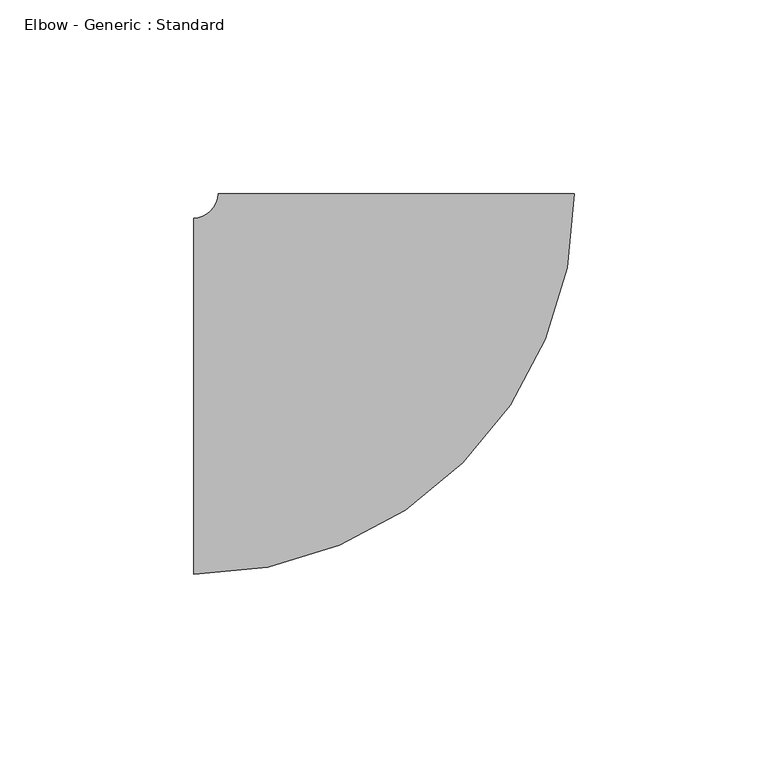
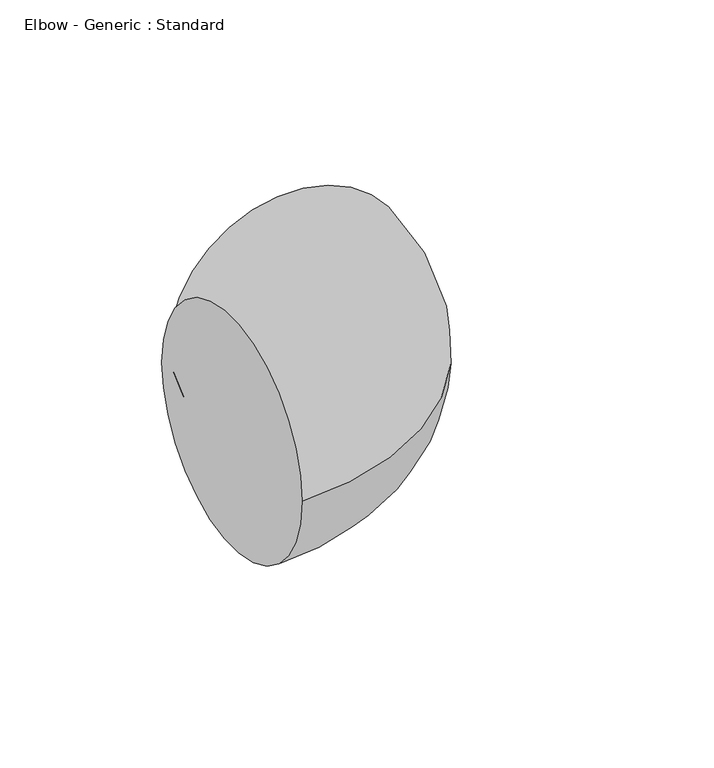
"""IFC4 building model written with IfcOpenShell, lengths in millimetres: pipe fitting geometry, Elbow - Generic : Standard."""

import ifcopenshell
import ifcopenshell.guid

model = None  # the IFC model being written
_history = None  # IfcOwnerHistory: only IFC2X3 demands one
_inside = {}  # id of a spatial element -> (the spatial element, [elements in it])
_under = {}  # id of a project, library or spatial element -> (it, [spatial elements below it])
_declared = {}  # id of a project -> (the project, [libraries it declares])
_typed = {}  # id of a type object -> (the type object, [elements of that type])
_made_of = {}  # id of a material, layer set ... -> (it, [elements and type objects made of it])


def new_model(schema):
    """Start an empty IFC model of exactly this schema.

    Asked for "IFC4X3", IfcOpenShell would pick the latest addendum, in which some entities
    have other attributes; the version numbers below select the first issue.
    IFC2X3 requires an IfcOwnerHistory on every rooted entity: one is made here for all.
    """
    global model, _history
    if schema == "IFC4X3":
        model = ifcopenshell.file(schema_version=(4, 3, 0, 0))
    else:
        model = ifcopenshell.file(schema=schema)
    _inside.clear()
    _under.clear()
    _declared.clear()
    _typed.clear()
    _made_of.clear()
    _history = None
    if model.schema == "IFC2X3":
        org = make("IfcOrganization", Name="unknown")
        user = make(
            "IfcPersonAndOrganization",
            ThePerson=make("IfcPerson", FamilyName="unknown"),
            TheOrganization=org,
        )
        app = make(
            "IfcApplication",
            ApplicationDeveloper=org,
            Version="unknown",
            ApplicationFullName="unknown",
            ApplicationIdentifier="unknown",
        )
        _history = make(
            "IfcOwnerHistory",
            OwningUser=user,
            OwningApplication=app,
            ChangeAction="ADDED",
            CreationDate=0,
        )
    return model


def make(cls, **values):
    """One entity of the class cls with the attributes given. An attribute that is None is left unset."""
    return model.create_entity(
        cls, **{name: value for name, value in values.items() if value is not None}
    )


def rooted(cls, **values):
    """An entity with a GlobalId (a new one), such as an element, a storey or a relation."""
    return make(cls, GlobalId=ifcopenshell.guid.new(), OwnerHistory=_history, **values)


def si_unit(unit_type, name, prefix=None):
    """IfcSIUnit, for example si_unit("LENGTHUNIT", "METRE", prefix="MILLI")."""
    return make("IfcSIUnit", UnitType=unit_type, Prefix=prefix, Name=name)


def assignment(units):
    """IfcUnitAssignment: the units of a project."""
    return None if units is None else make("IfcUnitAssignment", Units=units)


def point(xyz):
    """IfcCartesianPoint."""
    return None if xyz is None else make("IfcCartesianPoint", Coordinates=xyz)


def direction(xyz):
    """IfcDirection."""
    return None if xyz is None else make("IfcDirection", DirectionRatios=xyz)


def frame(location, z_axis=None, x_axis=None):
    """IfcAxis2Placement3D, a coordinate frame: its origin and axes. An axis left out is left unset."""
    return make(
        "IfcAxis2Placement3D",
        Location=point(location),
        Axis=direction(z_axis),
        RefDirection=direction(x_axis),
    )


def origin():
    """The frame at (0, 0, 0) with its axes left unset."""
    return frame((0.0, 0.0, 0.0))


def place(relative_to, where):
    """IfcLocalPlacement: puts the frame where relative to a parent placement (None: the world)."""
    return make(
        "IfcLocalPlacement", PlacementRelTo=relative_to, RelativePlacement=where
    )


def context(
    kind, dimensions, precision=None, world=None, true_north=None, identifier=None
):
    """IfcGeometricRepresentationContext, for example the 3D "Model" context."""
    return make(
        "IfcGeometricRepresentationContext",
        ContextIdentifier=identifier,
        ContextType=kind,
        CoordinateSpaceDimension=dimensions,
        Precision=precision,
        WorldCoordinateSystem=world,
        TrueNorth=true_north,
    )


def project(units=None, contexts=None):
    """IfcProject with its units and contexts."""
    return rooted(
        "IfcProject",
        Name="project",
        RepresentationContexts=contexts,
        UnitsInContext=assignment(units),
    )


def spatial(cls, under=None, at=None, **own):
    """A site, building, storey or space (cls), placed at a placement, below another one or the project."""
    s = rooted(cls, ObjectPlacement=at, **own)
    if under is not None:
        _under.setdefault(under.id(), (under, []))[1].append(s)
    return s


def circle_curve(where, radius):
    """IfcCircle in the frame where."""
    return make("IfcCircle", Position=where, Radius=radius)


def ellipse_curve(where, semi_axis1, semi_axis2):
    """IfcEllipse in the frame where."""
    return make(
        "IfcEllipse", Position=where, SemiAxis1=semi_axis1, SemiAxis2=semi_axis2
    )


def trimmed(basis, trim1, trim2, sense, master):
    """IfcTrimmedCurve: the piece of a basis curve between two trims."""
    return make(
        "IfcTrimmedCurve",
        BasisCurve=basis,
        Trim1=trim1,
        Trim2=trim2,
        SenseAgreement=sense,
        MasterRepresentation=master,
    )


def shape(context_of_items, identifier, shape_type, items):
    """IfcShapeRepresentation: the items that make up one representation, for example the "Body"."""
    return make(
        "IfcShapeRepresentation",
        ContextOfItems=context_of_items,
        RepresentationIdentifier=identifier,
        RepresentationType=shape_type,
        Items=items,
    )


def source(mapping_origin, context_of_items, identifier, shape_type, items):
    """IfcRepresentationMap: a shape defined once, which mapped items show again and again."""
    return make(
        "IfcRepresentationMap",
        MappingOrigin=mapping_origin,
        MappedRepresentation=shape(context_of_items, identifier, shape_type, items),
    )


def transform(
    local_origin,
    x_axis=None,
    y_axis=None,
    z_axis=None,
    scale=None,
    scale2=None,
    scale3=None,
    uniform=True,
):
    """IfcCartesianTransformationOperator3D, or its non-uniform kind. x_axis, y_axis, z_axis: its Axis1, 2, 3."""
    if uniform:
        return make(
            "IfcCartesianTransformationOperator3D",
            Axis1=direction(x_axis),
            Axis2=direction(y_axis),
            LocalOrigin=point(local_origin),
            Scale=scale,
            Axis3=direction(z_axis),
        )
    return make(
        "IfcCartesianTransformationOperator3DnonUniform",
        Axis1=direction(x_axis),
        Axis2=direction(y_axis),
        LocalOrigin=point(local_origin),
        Scale=scale,
        Axis3=direction(z_axis),
        Scale2=scale2,
        Scale3=scale3,
    )


def mapped(mapping_source, mapping_target):
    """IfcMappedItem: shows the shape of a source again, moved by a transform."""
    return make(
        "IfcMappedItem", MappingSource=mapping_source, MappingTarget=mapping_target
    )


def made_of(thing, what):
    """Note that an element or type object is made of a material, layer set ...; save() writes the relation."""
    if what is not None:
        _made_of.setdefault(what.id(), (what, []))[1].append(thing)
    return thing


def element(
    cls,
    number,
    at=None,
    inside=None,
    cuts=None,
    type_object=None,
    material=None,
    context=None,
    identifier="Body",
    shape_type=None,
    held_by="IfcProductDefinitionShape",
    body=None,
    shapes=None,
    **own,
):
    """One element of the class cls, such as IfcWall. Its Tag is "e" and its number.

    at: its placement. inside: the storey or other place that contains it. cuts: it is an
    opening in that element (IfcRelVoidsElement). A single representation is given by context,
    identifier, shape_type and body (its items); several are given by shapes. held_by: the class
    of the entity that holds the representations. save() writes the other relations.
    """
    e = rooted(cls, Tag="e%d" % number, ObjectPlacement=at, **own)
    if body is not None:
        shapes = [shape(context, identifier, shape_type, body)]
    if shapes is not None:
        e.Representation = make(held_by, Representations=shapes)
    if inside is not None:
        _inside.setdefault(inside.id(), (inside, []))[1].append(e)
    if cuts is not None:
        rooted(
            "IfcRelVoidsElement", RelatingBuildingElement=cuts, RelatedOpeningElement=e
        )
    if type_object is not None:
        _typed.setdefault(type_object.id(), (type_object, []))[1].append(e)
    return made_of(e, material)


def aggregate(whole, parts):
    """IfcRelAggregates: a whole, such as a stair, and the parts it consists of."""
    return rooted("IfcRelAggregates", RelatingObject=whole, RelatedObjects=parts)


def save(model, path):
    """Write the relations noted so far, then the file.

    IfcRelAggregates (storeys below a building ...), IfcRelContainedInSpatialStructure (elements
    in a storey), IfcRelDefinesByType, IfcRelAssociatesMaterial and IfcRelDeclares: one each for
    every whole, place, type object, material and project.
    """
    for whole, parts in _under.values():
        aggregate(whole, parts)
    for where, things in _inside.values():
        rooted(
            "IfcRelContainedInSpatialStructure",
            RelatedElements=things,
            RelatingStructure=where,
        )
    for kind, things in _typed.values():
        rooted("IfcRelDefinesByType", RelatedObjects=things, RelatingType=kind)
    for what, things in _made_of.values():
        rooted("IfcRelAssociatesMaterial", RelatedObjects=things, RelatingMaterial=what)
    for by, libraries in _declared.values():
        rooted("IfcRelDeclares", RelatingContext=by, RelatedDefinitions=libraries)
    model.write(path)


def plane_surface(at):
    """IfcPlane: the flat surface through the origin of the frame at, square to its z axis."""
    return make("IfcPlane", Position=at)


def revolved_surface(curve, axis_point, axis_direction):
    """IfcSurfaceOfRevolution: the curve turned about the line through axis_point along axis_direction."""
    return make(
        "IfcSurfaceOfRevolution",
        SweptCurve=make("IfcArbitraryOpenProfileDef", ProfileType="CURVE", Curve=curve),
        AxisPosition=make("IfcAxis1Placement", Location=point(axis_point), Axis=direction(axis_direction)),
    )


def advanced_brep(points, edges, surfaces, faces):
    """IfcAdvancedBrep: a solid bounded by faces that lie on surfaces and meet in shared edges.

    An edge is (start, end): straight between two places in points (the first is 0);
    or (start, end, curve); or (start, end, curve, False) where it runs against its curve.
    A face is (place in surfaces, loops), or (place, loops, False) where it looks against
    its surface's normal. A loop lists edges by number (the first is 1), with a minus sign
    where the edge is run from its end to its start. The first loop is the outer one.
    """
    corners = [point(p) for p in points]
    vertices = [make("IfcVertexPoint", VertexGeometry=c) for c in corners]
    made = []
    for start, end, *more in edges:
        made.append(
            make(
                "IfcEdgeCurve",
                EdgeStart=vertices[start],
                EdgeEnd=vertices[end],
                EdgeGeometry=more[0] if more else make("IfcPolyline", Points=[corners[start], corners[end]]),
                SameSense=more[1] if len(more) > 1 else True,
            )
        )
    hull = []
    for where, loops, *sense in faces:
        bounds = []
        for j, loop in enumerate(loops):
            ring = [make("IfcOrientedEdge", EdgeElement=made[abs(k) - 1], Orientation=k > 0) for k in loop]
            bounds.append(
                make(
                    "IfcFaceOuterBound" if j == 0 else "IfcFaceBound",
                    Bound=make("IfcEdgeLoop", EdgeList=ring),
                    Orientation=True,
                )
            )
        hull.append(make("IfcAdvancedFace", Bounds=bounds, FaceSurface=surfaces[where], SameSense=sense[0] if sense else True))
    return make("IfcAdvancedBrep", Outer=make("IfcClosedShell", CfsFaces=hull))


def elbow_generic_standard_60ae2d4a(model_context):
    return source(origin(), model_context, "Body", "AdvancedBrep", [
        advanced_brep(
        [(-52.380959, -46.0375, 0.0), (-52.380959, 46.0375, 0.0), (46.0440403, 52.37521, 0.0), (-46.030959, 52.3867071, 0.0)],
        [
            (0, 1, circle_curve(frame((-52.380959, 0.0, 0.0), z_axis=(-1.0, 0.0, 0.0), x_axis=(0.0, 1.0, 0.0)), 46.0375)),
            (1, 0, circle_curve(frame((-52.380959, 0.0, 0.0), z_axis=(-1.0, 0.0, 0.0), x_axis=(0.0, 1.0, 0.0)), 46.0375)),
            (2, 3, circle_curve(frame((0.0065406, 52.3809585, 0.0), z_axis=(0.00012486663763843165, 0.9999999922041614, 0.0), x_axis=(-0.9999999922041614, 0.00012486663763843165, 0.0)), 46.0375)),
            (3, 2, circle_curve(frame((0.0065406, 52.3809585, 0.0), z_axis=(0.00012486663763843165, 0.9999999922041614, 0.0), x_axis=(-0.9999999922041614, 0.00012486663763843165, 0.0)), 46.0375)),
            (3, 1, circle_curve(frame((-52.380959, 52.3875, 0.0), z_axis=(0.0, 0.0, -1.0), x_axis=(0.0, -1.0, 0.0)), 6.35)),
            (0, 2, circle_curve(frame((-52.380959, 52.3875, 0.0), z_axis=(0.0, 0.0, 1.0), x_axis=(0.0, -1.0, 0.0)), 98.425)),
        ],
        [
            plane_surface(frame((-52.380959, 0.0, 0.0), z_axis=(-1.0, 0.0, 0.0), x_axis=(0.0, 0.0, 1.0))),
            plane_surface(frame((0.0065406, 52.3809585, 0.0), z_axis=(0.0001248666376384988, 0.9999999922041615, 0.0), x_axis=(0.0, 0.0, 1.0))),
            revolved_surface(trimmed(ellipse_curve(frame((-52.380959, 0.0, 0.0), z_axis=(-1.0, 0.0, 0.0), x_axis=(0.0, 1.0, 0.0)), 46.0375, 46.0375), [point((-52.380959, -46.0375, 0.0))], [point((-52.380959, 46.0375, 0.0))], True, "CARTESIAN"), (-52.380959, 52.3875, 0.0), (0.0, 0.0, 1.0)),
            revolved_surface(trimmed(ellipse_curve(frame((-52.380959, 0.0, 0.0), z_axis=(-1.0, 0.0, 0.0), x_axis=(0.0, 1.0, 0.0)), 46.0375, 46.0375), [point((-52.380959, 46.0375, 0.0))], [point((-52.380959, -46.0375, 0.0))], True, "CARTESIAN"), (-52.380959, 52.3875, 0.0), (0.0, 0.0, 1.0)),
        ],
        [
            (0, [[1, 2]]),
            (1, [[3, 4]]),
            (2, [[5, -1, 6, -4]]),
            (3, [[-6, -2, -5, -3]]),
        ],
    ),
    ])


if __name__ == "__main__":
    model = new_model("IFC4")
    model_context = context("Model", 3, world=origin())
    ifc_project = project(units=[si_unit("LENGTHUNIT", "METRE", prefix="MILLI")], contexts=[model_context])
    site = spatial("IfcSite", under=ifc_project)
    building = spatial("IfcBuilding", under=site)
    placement = place(None, origin())
    elbow_generic_standard_shape = elbow_generic_standard_60ae2d4a(model_context)
    element("IfcPipeFitting", 1, ObjectType="Elbow - Generic : Standard", at=placement, inside=building, context=model_context, shape_type="MappedRepresentation", body=[
        mapped(elbow_generic_standard_shape, transform((0.0, 0.0, 0.0), x_axis=(1.0, 0.0, 0.0), y_axis=(0.0, 1.0, 0.0), z_axis=(0.0, 0.0, 1.0))),
    ])
    save(model, "model.ifc")
